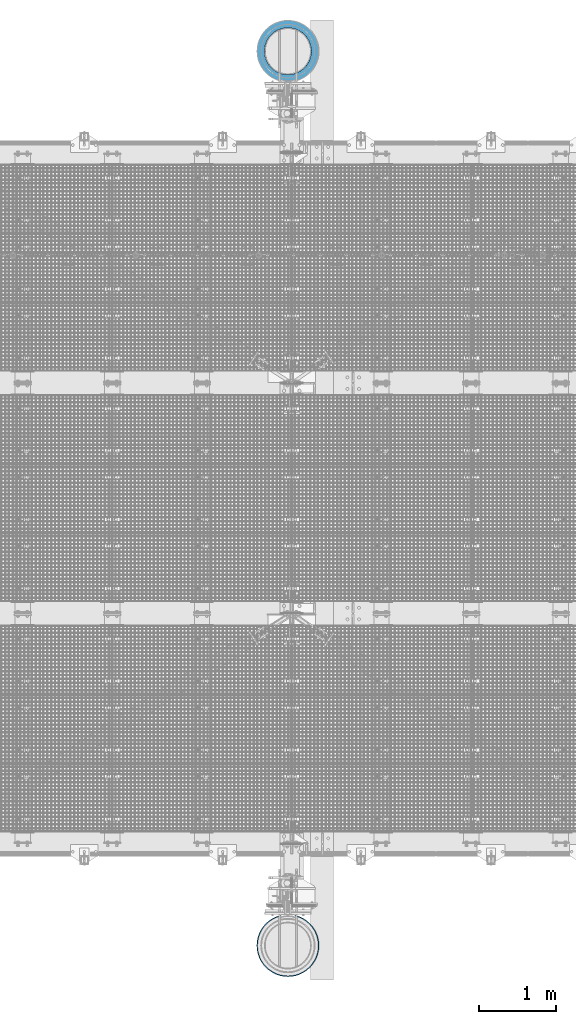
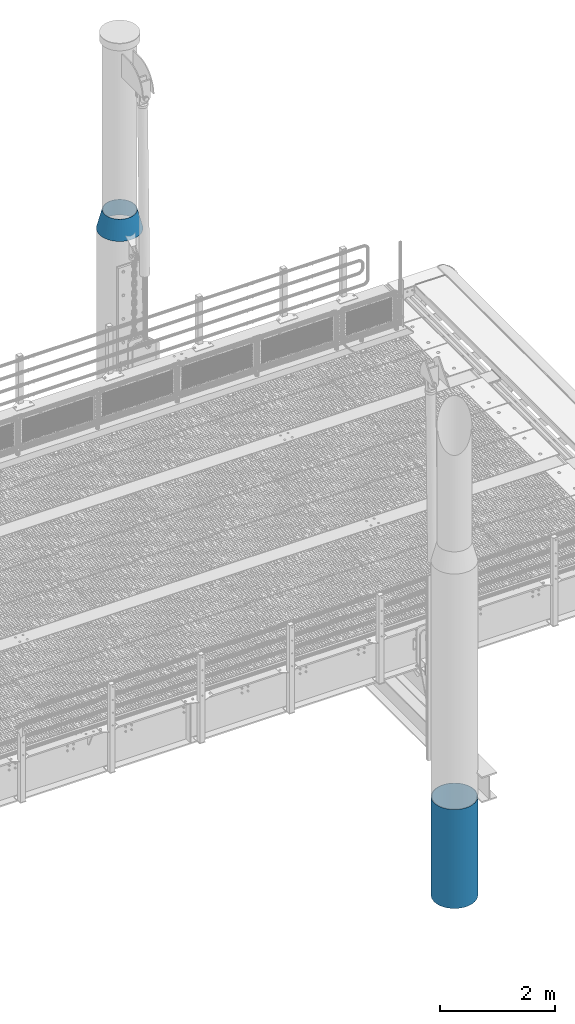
# One storey, part 109 of 1530: 2 columns.
"""IFC2X3 building model written with IfcOpenShell, lengths in millimetres."""

from ifc_helpers import new_model, si_unit, frame, origin_with_axes, place, context, subcontext, project, spatial, faceted_brep, material, type_object, element, save


model = new_model("IFC2X3")

# Units and contexts
model_context = context("Model", 3, precision=1e-05, world=origin_with_axes())
body_context = subcontext(model_context, "Body", "Model", "MODEL_VIEW")
ifc_project = project(units=[si_unit("LENGTHUNIT", "METRE", prefix="MILLI"), si_unit("AREAUNIT", "SQUARE_METRE"), si_unit("VOLUMEUNIT", "CUBIC_METRE"), si_unit("MASSUNIT", "GRAM", prefix="KILO"), si_unit("TIMEUNIT", "SECOND"), si_unit("PLANEANGLEUNIT", "RADIAN"), si_unit("SOLIDANGLEUNIT", "STERADIAN"), si_unit("THERMODYNAMICTEMPERATUREUNIT", "DEGREE_CELSIUS"), si_unit("LUMINOUSINTENSITYUNIT", "LUMEN")], contexts=[model_context])

# Site, building, storey
site_placement = place(None, origin_with_axes())
site = spatial("IfcSite", under=ifc_project, at=site_placement, Name="Brattvåg", CompositionType="ELEMENT")
building_placement = place(site_placement, origin_with_axes())
building = spatial("IfcBuilding", under=site, at=building_placement, Name="Undefined", CompositionType="ELEMENT")
storey_placement = place(building_placement, origin_with_axes())
storey = spatial("IfcBuildingStorey", under=building, at=storey_placement, Name="Undefined", CompositionType="ELEMENT", Elevation=0.0)

# Columns
ifc_material = material(Name="STEEL/Steel_Undefined")
column_type_1 = type_object("IfcColumnType", Name="EPD813*813*610*610*10", PredefinedType="NOTDEFINED")
column_1_placement = place(storey_placement, frame((12199.9995346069, 10321.5002708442, 2100.0), z_axis=(-1.0, 1.99999855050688e-09, 0.0), x_axis=(0.0, 0.0, 1.0)))
element("IfcColumn", 1, at=column_1_placement, inside=storey, type_object=column_type_1, material=ifc_material, Name="HEISTÅRN", context=body_context, shape_type="Brep", body=[
    faceted_brep([(0.0, -406.5, 0.0), (0.0, -403.022336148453, -53.0588971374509), (400.0, -302.390682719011, -39.8104886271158), (400.0, -305.0, 0.0), (0.0, -392.648848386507, -105.209941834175), (400.0, -294.607377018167, -78.9398087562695), (0.0, -375.557029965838, -155.560815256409), (400.0, -281.783257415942, -116.718446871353), (0.0, -352.039326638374, -203.25), (400.0, -264.137748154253, -152.5), (0.0, -322.498132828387, -247.461520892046), (400.0, -241.972768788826, -185.67223584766), (0.0, -287.438906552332, -287.438906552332), (400.0, -215.667568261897, -215.667568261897), (0.0, -247.461520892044, -322.498132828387), (400.0, -185.67223584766, -241.972768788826), (0.0, -203.25, -352.039326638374), (400.0, -152.5, -264.137748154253), (0.0, -155.560815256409, -375.557029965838), (400.0, -116.718446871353, -281.783257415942), (0.0, -105.209941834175, -392.648848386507), (400.0, -78.9398087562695, -294.607377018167), (0.0, -53.0588971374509, -403.022336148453), (400.0, -39.8104886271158, -302.390682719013), (0.0, 0.0, -406.5), (400.0, 0.0, -305.0), (0.0, 53.0588971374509, -403.022336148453), (400.0, 39.8104886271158, -302.390682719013), (0.0, 105.209941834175, -392.648848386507), (400.0, 78.9398087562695, -294.607377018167), (0.0, 155.560815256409, -375.557029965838), (400.0, 116.718446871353, -281.783257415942), (0.0, 203.25, -352.039326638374), (400.0, 152.5, -264.137748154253), (0.0, 247.461520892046, -322.498132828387), (400.0, 185.67223584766, -241.972768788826), (0.0, 287.438906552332, -287.438906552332), (400.0, 215.667568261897, -215.667568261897), (0.0, 322.498132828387, -247.461520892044), (400.0, 241.972768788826, -185.67223584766), (0.0, 352.039326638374, -203.25), (400.0, 264.137748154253, -152.5), (0.0, 375.557029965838, -155.560815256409), (400.0, 281.783257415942, -116.718446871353), (0.0, 392.648848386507, -105.209941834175), (400.0, 294.607377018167, -78.9398087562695), (0.0, 403.022336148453, -53.0588971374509), (400.0, 302.390682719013, -39.8104886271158), (0.0, 406.5, 0.0), (400.0, 305.0, 0.0), (0.0, 403.022336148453, 53.0588971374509), (400.0, 302.390682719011, 39.8104886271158), (0.0, 392.648848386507, 105.209941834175), (400.0, 294.607377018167, 78.9398087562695), (0.0, 375.557029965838, 155.560815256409), (400.0, 281.783257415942, 116.718446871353), (0.0, 352.039326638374, 203.25), (400.0, 264.137748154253, 152.5), (0.0, 322.498132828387, 247.461520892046), (400.0, 241.972768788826, 185.67223584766), (0.0, 287.438906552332, 287.438906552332), (400.0, 215.667568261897, 215.667568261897), (0.0, 247.461520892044, 322.498132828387), (400.0, 185.67223584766, 241.972768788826), (0.0, 203.25, 352.039326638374), (400.0, 152.5, 264.137748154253), (0.0, 155.560815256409, 375.557029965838), (400.0, 116.718446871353, 281.783257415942), (0.0, 105.209941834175, 392.648848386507), (400.0, 78.9398087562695, 294.607377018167), (0.0, 53.0588971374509, 403.022336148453), (400.0, 39.8104886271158, 302.390682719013), (0.0, 0.0, 406.5), (400.0, 0.0, 305.0), (0.0, -53.0588971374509, 403.022336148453), (400.0, -39.8104886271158, 302.390682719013), (0.0, -105.209941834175, 392.648848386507), (400.0, -78.9398087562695, 294.607377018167), (0.0, -155.560815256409, 375.557029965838), (400.0, -116.718446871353, 281.783257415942), (0.0, -203.25, 352.039326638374), (400.0, -152.5, 264.137748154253), (0.0, -247.461520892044, 322.498132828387), (400.0, -185.67223584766, 241.972768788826), (0.0, -287.438906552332, 287.438906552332), (400.0, -215.667568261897, 215.667568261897), (0.0, -322.498132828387, 247.461520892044), (400.0, -241.972768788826, 185.67223584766), (0.0, -352.039326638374, 203.25), (400.0, -264.137748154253, 152.5), (0.0, -375.557029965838, 155.560815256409), (400.0, -281.783257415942, 116.718446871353), (0.0, -392.648848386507, 105.209941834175), (400.0, -294.607377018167, 78.9398087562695), (0.0, -403.022336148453, 53.0588971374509), (400.0, -302.390682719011, 39.8104886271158), (0.0, -396.183076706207, 0.0), (0.0, -392.793675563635, 51.712268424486), (400.0, -292.162022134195, 38.4638599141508), (400.0, -294.683076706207, 0.0), (0.0, -382.683465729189, 102.539725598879), (400.0, -284.641994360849, 76.2695925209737), (0.0, -366.025435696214, 151.612699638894), (400.0, -272.251663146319, 112.770331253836), (0.0, -343.104608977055, 198.091538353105), (400.0, -255.203030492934, 147.341538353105), (0.0, -314.313167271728, 241.180975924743), (400.0, -233.787803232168, 179.391690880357), (0.0, -280.14374013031, 280.14374013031), (400.0, -208.372401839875, 208.372401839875), (0.0, -241.180975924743, 314.313167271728), (400.0, -179.391690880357, 233.787803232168), (0.0, -198.091538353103, 343.104608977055), (400.0, -147.341538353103, 255.203030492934), (0.0, -151.612699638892, 366.025435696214), (400.0, -112.770331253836, 272.251663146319), (0.0, -102.539725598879, 382.683465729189), (400.0, -76.2695925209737, 284.641994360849), (0.0, -51.712268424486, 392.793675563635), (400.0, -38.4638599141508, 292.162022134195), (0.0, 0.0, 396.183076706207), (400.0, 0.0, 294.683076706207), (0.0, 51.712268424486, 392.793675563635), (400.0, 38.4638599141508, 292.162022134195), (0.0, 102.539725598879, 382.683465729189), (400.0, 76.2695925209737, 284.641994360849), (0.0, 151.612699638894, 366.025435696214), (400.0, 112.770331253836, 272.251663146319), (0.0, 198.091538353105, 343.104608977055), (400.0, 147.341538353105, 255.203030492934), (0.0, 241.180975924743, 314.313167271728), (400.0, 179.391690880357, 233.787803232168), (0.0, 280.14374013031, 280.14374013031), (400.0, 208.372401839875, 208.372401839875), (0.0, 314.313167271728, 241.180975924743), (400.0, 233.787803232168, 179.391690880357), (0.0, 343.104608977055, 198.091538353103), (400.0, 255.203030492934, 147.341538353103), (0.0, 366.025435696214, 151.612699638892), (400.0, 272.251663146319, 112.770331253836), (0.0, 382.683465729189, 102.539725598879), (400.0, 284.641994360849, 76.2695925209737), (0.0, 392.793675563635, 51.712268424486), (400.0, 292.162022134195, 38.4638599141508), (0.0, 396.183076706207, 0.0), (400.0, 294.683076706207, 0.0), (0.0, 392.793675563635, -51.712268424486), (400.0, 292.162022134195, -38.4638599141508), (0.0, 382.683465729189, -102.539725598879), (400.0, 284.641994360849, -76.2695925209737), (0.0, 366.025435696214, -151.612699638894), (400.0, 272.251663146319, -112.770331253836), (0.0, 343.104608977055, -198.091538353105), (400.0, 255.203030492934, -147.341538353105), (0.0, 314.313167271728, -241.180975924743), (400.0, 233.787803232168, -179.391690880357), (0.0, 280.14374013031, -280.14374013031), (400.0, 208.372401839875, -208.372401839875), (0.0, 241.180975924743, -314.313167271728), (400.0, 179.391690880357, -233.787803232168), (0.0, 198.091538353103, -343.104608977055), (400.0, 147.341538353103, -255.203030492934), (0.0, 151.612699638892, -366.025435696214), (400.0, 112.770331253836, -272.251663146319), (0.0, 102.539725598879, -382.683465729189), (400.0, 76.2695925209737, -284.641994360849), (0.0, 51.712268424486, -392.793675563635), (400.0, 38.4638599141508, -292.162022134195), (0.0, 0.0, -396.183076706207), (400.0, 0.0, -294.683076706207), (0.0, -51.712268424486, -392.793675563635), (400.0, -38.4638599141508, -292.162022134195), (0.0, -102.539725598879, -382.683465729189), (400.0, -76.2695925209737, -284.641994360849), (0.0, -151.612699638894, -366.025435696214), (400.0, -112.770331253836, -272.251663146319), (0.0, -198.091538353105, -343.104608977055), (400.0, -147.341538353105, -255.203030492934), (0.0, -241.180975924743, -314.313167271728), (400.0, -179.391690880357, -233.787803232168), (0.0, -280.14374013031, -280.14374013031), (400.0, -208.372401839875, -208.372401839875), (0.0, -314.313167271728, -241.180975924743), (400.0, -233.787803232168, -179.391690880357), (0.0, -343.104608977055, -198.091538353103), (400.0, -255.203030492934, -147.341538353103), (0.0, -366.025435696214, -151.612699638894), (400.0, -272.251663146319, -112.770331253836), (0.0, -382.683465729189, -102.539725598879), (400.0, -284.641994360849, -76.2695925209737), (0.0, -392.793675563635, -51.712268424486), (400.0, -292.162022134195, -38.4638599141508)], [[[0, 1, 2, 3]], [[1, 4, 5, 2]], [[4, 6, 7, 5]], [[6, 8, 9, 7]], [[8, 10, 11, 9]], [[10, 12, 13, 11]], [[12, 14, 15, 13]], [[14, 16, 17, 15]], [[16, 18, 19, 17]], [[18, 20, 21, 19]], [[20, 22, 23, 21]], [[22, 24, 25, 23]], [[24, 26, 27, 25]], [[26, 28, 29, 27]], [[28, 30, 31, 29]], [[30, 32, 33, 31]], [[32, 34, 35, 33]], [[34, 36, 37, 35]], [[36, 38, 39, 37]], [[38, 40, 41, 39]], [[40, 42, 43, 41]], [[42, 44, 45, 43]], [[44, 46, 47, 45]], [[46, 48, 49, 47]], [[48, 50, 51, 49]], [[50, 52, 53, 51]], [[52, 54, 55, 53]], [[54, 56, 57, 55]], [[56, 58, 59, 57]], [[58, 60, 61, 59]], [[60, 62, 63, 61]], [[62, 64, 65, 63]], [[64, 66, 67, 65]], [[66, 68, 69, 67]], [[68, 70, 71, 69]], [[70, 72, 73, 71]], [[72, 74, 75, 73]], [[74, 76, 77, 75]], [[76, 78, 79, 77]], [[78, 80, 81, 79]], [[80, 82, 83, 81]], [[82, 84, 85, 83]], [[84, 86, 87, 85]], [[86, 88, 89, 87]], [[88, 90, 91, 89]], [[90, 92, 93, 91]], [[92, 94, 95, 93]], [[94, 0, 3, 95]], [[96, 97, 98, 99]], [[97, 100, 101, 98]], [[100, 102, 103, 101]], [[102, 104, 105, 103]], [[104, 106, 107, 105]], [[106, 108, 109, 107]], [[108, 110, 111, 109]], [[110, 112, 113, 111]], [[112, 114, 115, 113]], [[114, 116, 117, 115]], [[116, 118, 119, 117]], [[118, 120, 121, 119]], [[120, 122, 123, 121]], [[122, 124, 125, 123]], [[124, 126, 127, 125]], [[126, 128, 129, 127]], [[128, 130, 131, 129]], [[130, 132, 133, 131]], [[132, 134, 135, 133]], [[134, 136, 137, 135]], [[136, 138, 139, 137]], [[138, 140, 141, 139]], [[140, 142, 143, 141]], [[142, 144, 145, 143]], [[144, 146, 147, 145]], [[146, 148, 149, 147]], [[148, 150, 151, 149]], [[150, 152, 153, 151]], [[152, 154, 155, 153]], [[154, 156, 157, 155]], [[156, 158, 159, 157]], [[158, 160, 161, 159]], [[160, 162, 163, 161]], [[162, 164, 165, 163]], [[164, 166, 167, 165]], [[166, 168, 169, 167]], [[168, 170, 171, 169]], [[170, 172, 173, 171]], [[172, 174, 175, 173]], [[174, 176, 177, 175]], [[176, 178, 179, 177]], [[178, 180, 181, 179]], [[180, 182, 183, 181]], [[182, 184, 185, 183]], [[184, 186, 187, 185]], [[186, 188, 189, 187]], [[188, 190, 191, 189]], [[190, 96, 99, 191]], [[5, 7, 9, 11, 13, 15, 17, 19, 21, 23, 25, 27, 29, 31, 33, 35, 37, 39, 41, 43, 45, 47, 49, 51, 53, 55, 57, 59, 61, 63, 65, 67, 69, 71, 73, 75, 77, 79, 81, 83, 85, 87, 89, 91, 93, 95, 3, 2], [101, 103, 105, 107, 109, 111, 113, 115, 117, 119, 121, 123, 125, 127, 129, 131, 133, 135, 137, 139, 141, 143, 145, 147, 149, 151, 153, 155, 157, 159, 161, 163, 165, 167, 169, 171, 173, 175, 177, 179, 181, 183, 185, 187, 189, 191, 99, 98]], [[94, 92, 90, 88, 86, 84, 82, 80, 78, 76, 74, 72, 70, 68, 66, 64, 62, 60, 58, 56, 54, 52, 50, 48, 46, 44, 42, 40, 38, 36, 34, 32, 30, 28, 26, 24, 22, 20, 18, 16, 14, 12, 10, 8, 6, 4, 1, 0], [190, 188, 186, 184, 182, 180, 178, 176, 174, 172, 170, 168, 166, 164, 162, 160, 158, 156, 154, 152, 150, 148, 146, 144, 142, 140, 138, 136, 134, 132, 130, 128, 126, 124, 122, 120, 118, 116, 114, 112, 110, 108, 106, 104, 102, 100, 97, 96]]]),
])
column_type_2 = type_object("IfcColumnType", Name="Ø813*12.5", PredefinedType="NOTDEFINED")
column_2_placement = place(storey_placement, frame((12199.9995346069, -1321.50027084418, -5000.0), z_axis=(-1.0, 1.99999855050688e-09, 0.0), x_axis=(0.0, 0.0, 1.0)))
element("IfcColumn", 2, at=column_2_placement, inside=storey, type_object=column_type_2, material=ifc_material, Name="HEISTÅRN", context=body_context, shape_type="Brep", body=[
    faceted_brep([(0.0, -394.0, 0.0), (0.0, -390.629275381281, 51.4273197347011), (2100.0, -390.629275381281, 51.4273197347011), (2100.0, -394.0, 0.0), (0.0, -380.574775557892, 101.974703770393), (2100.0, -380.574775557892, 101.974703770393), (0.0, -364.008535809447, 150.777272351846), (2100.0, -364.008535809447, 150.777272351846), (0.0, -341.214009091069, 197.0), (2100.0, -341.214009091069, 197.0), (0.0, -312.581216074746, 239.852003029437), (2100.0, -312.581216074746, 239.852003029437), (0.0, -278.600071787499, 278.600071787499), (2100.0, -278.600071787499, 278.600071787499), (0.0, -239.852003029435, 312.581216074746), (2100.0, -239.852003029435, 312.581216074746), (0.0, -197.0, 341.214009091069), (2100.0, -197.0, 341.214009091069), (0.0, -150.777272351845, 364.008535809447), (2100.0, -150.777272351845, 364.008535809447), (0.0, -101.974703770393, 380.574775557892), (2100.0, -101.974703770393, 380.574775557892), (0.0, -51.4273197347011, 390.629275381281), (2100.0, -51.4273197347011, 390.629275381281), (0.0, 0.0, 394.0), (2100.0, 0.0, 394.0), (0.0, 51.4273197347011, 390.629275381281), (2100.0, 51.4273197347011, 390.629275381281), (0.0, 101.974703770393, 380.574775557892), (2100.0, 101.974703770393, 380.574775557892), (0.0, 150.777272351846, 364.008535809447), (2100.0, 150.777272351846, 364.008535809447), (0.0, 197.0, 341.214009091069), (2100.0, 197.0, 341.214009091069), (0.0, 239.852003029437, 312.581216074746), (2100.0, 239.852003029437, 312.581216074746), (0.0, 278.600071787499, 278.600071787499), (2100.0, 278.600071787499, 278.600071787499), (0.0, 312.581216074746, 239.852003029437), (2100.0, 312.581216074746, 239.852003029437), (0.0, 341.214009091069, 197.0), (2100.0, 341.214009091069, 197.0), (0.0, 364.008535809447, 150.777272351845), (2100.0, 364.008535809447, 150.777272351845), (0.0, 380.574775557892, 101.974703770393), (2100.0, 380.574775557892, 101.974703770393), (0.0, 390.629275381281, 51.4273197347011), (2100.0, 390.629275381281, 51.4273197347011), (0.0, 394.0, 0.0), (2100.0, 394.0, 0.0), (0.0, 390.629275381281, -51.4273197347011), (2100.0, 390.629275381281, -51.4273197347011), (0.0, 380.574775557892, -101.974703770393), (2100.0, 380.574775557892, -101.974703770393), (0.0, 364.008535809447, -150.777272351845), (2100.0, 364.008535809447, -150.777272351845), (0.0, 341.214009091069, -197.0), (2100.0, 341.214009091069, -197.0), (0.0, 312.581216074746, -239.852003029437), (2100.0, 312.581216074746, -239.852003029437), (0.0, 278.600071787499, -278.600071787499), (2100.0, 278.600071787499, -278.600071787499), (0.0, 239.852003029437, -312.581216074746), (2100.0, 239.852003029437, -312.581216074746), (0.0, 197.0, -341.214009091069), (2100.0, 197.0, -341.214009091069), (0.0, 150.777272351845, -364.008535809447), (2100.0, 150.777272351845, -364.008535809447), (0.0, 101.974703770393, -380.574775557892), (2100.0, 101.974703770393, -380.574775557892), (0.0, 51.4273197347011, -390.629275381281), (2100.0, 51.4273197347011, -390.629275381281), (0.0, 0.0, -394.0), (2100.0, 0.0, -394.0), (0.0, -51.4273197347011, -390.629275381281), (2100.0, -51.4273197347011, -390.629275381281), (0.0, -101.974703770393, -380.574775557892), (2100.0, -101.974703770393, -380.574775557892), (0.0, -150.777272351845, -364.008535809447), (2100.0, -150.777272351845, -364.008535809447), (0.0, -197.0, -341.214009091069), (2100.0, -197.0, -341.214009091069), (0.0, -239.852003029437, -312.581216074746), (2100.0, -239.852003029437, -312.581216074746), (0.0, -278.600071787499, -278.600071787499), (2100.0, -278.600071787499, -278.600071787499), (0.0, -312.581216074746, -239.852003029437), (2100.0, -312.581216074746, -239.852003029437), (0.0, -341.214009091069, -197.0), (2100.0, -341.214009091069, -197.0), (0.0, -364.008535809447, -150.777272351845), (2100.0, -364.008535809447, -150.777272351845), (0.0, -380.574775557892, -101.974703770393), (2100.0, -380.574775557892, -101.974703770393), (0.0, -390.629275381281, -51.4273197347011), (2100.0, -390.629275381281, -51.4273197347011), (0.0, -406.5, 0.0), (0.0, -403.022336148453, -53.0588971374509), (2100.0, -403.022336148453, -53.0588971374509), (2100.0, -406.5, 0.0), (0.0, -392.648848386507, -105.209941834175), (2100.0, -392.648848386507, -105.209941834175), (0.0, -375.557029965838, -155.560815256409), (2100.0, -375.557029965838, -155.560815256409), (0.0, -352.039326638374, -203.25), (2100.0, -352.039326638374, -203.25), (0.0, -322.498132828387, -247.461520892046), (2100.0, -322.498132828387, -247.461520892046), (0.0, -287.438906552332, -287.438906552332), (2100.0, -287.438906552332, -287.438906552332), (0.0, -247.461520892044, -322.498132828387), (2100.0, -247.461520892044, -322.498132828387), (0.0, -203.25, -352.039326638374), (2100.0, -203.25, -352.039326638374), (0.0, -155.560815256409, -375.557029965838), (2100.0, -155.560815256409, -375.557029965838), (0.0, -105.209941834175, -392.648848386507), (2100.0, -105.209941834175, -392.648848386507), (0.0, -53.0588971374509, -403.022336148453), (2100.0, -53.0588971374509, -403.022336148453), (0.0, 0.0, -406.5), (2100.0, 0.0, -406.5), (0.0, 53.0588971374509, -403.022336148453), (2100.0, 53.0588971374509, -403.022336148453), (0.0, 105.209941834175, -392.648848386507), (2100.0, 105.209941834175, -392.648848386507), (0.0, 155.560815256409, -375.557029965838), (2100.0, 155.560815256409, -375.557029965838), (0.0, 203.25, -352.039326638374), (2100.0, 203.25, -352.039326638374), (0.0, 247.461520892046, -322.498132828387), (2100.0, 247.461520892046, -322.498132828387), (0.0, 287.438906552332, -287.438906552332), (2100.0, 287.438906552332, -287.438906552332), (0.0, 322.498132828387, -247.461520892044), (2100.0, 322.498132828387, -247.461520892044), (0.0, 352.039326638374, -203.25), (2100.0, 352.039326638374, -203.25), (0.0, 375.557029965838, -155.560815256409), (2100.0, 375.557029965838, -155.560815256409), (0.0, 392.648848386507, -105.209941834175), (2100.0, 392.648848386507, -105.209941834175), (0.0, 403.022336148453, -53.0588971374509), (2100.0, 403.022336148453, -53.0588971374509), (0.0, 406.5, 0.0), (2100.0, 406.5, 0.0), (0.0, 403.022336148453, 53.0588971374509), (2100.0, 403.022336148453, 53.0588971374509), (0.0, 392.648848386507, 105.209941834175), (2100.0, 392.648848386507, 105.209941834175), (0.0, 375.557029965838, 155.560815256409), (2100.0, 375.557029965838, 155.560815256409), (0.0, 352.039326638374, 203.25), (2100.0, 352.039326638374, 203.25), (0.0, 322.498132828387, 247.461520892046), (2100.0, 322.498132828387, 247.461520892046), (0.0, 287.438906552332, 287.438906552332), (2100.0, 287.438906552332, 287.438906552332), (0.0, 247.461520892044, 322.498132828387), (2100.0, 247.461520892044, 322.498132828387), (0.0, 203.25, 352.039326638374), (2100.0, 203.25, 352.039326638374), (0.0, 155.560815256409, 375.557029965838), (2100.0, 155.560815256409, 375.557029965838), (0.0, 105.209941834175, 392.648848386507), (2100.0, 105.209941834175, 392.648848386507), (0.0, 53.0588971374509, 403.022336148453), (2100.0, 53.0588971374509, 403.022336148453), (0.0, 0.0, 406.5), (2100.0, 0.0, 406.5), (0.0, -53.0588971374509, 403.022336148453), (2100.0, -53.0588971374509, 403.022336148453), (0.0, -105.209941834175, 392.648848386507), (2100.0, -105.209941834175, 392.648848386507), (0.0, -155.560815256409, 375.557029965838), (2100.0, -155.560815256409, 375.557029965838), (0.0, -203.25, 352.039326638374), (2100.0, -203.25, 352.039326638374), (0.0, -247.461520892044, 322.498132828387), (2100.0, -247.461520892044, 322.498132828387), (0.0, -287.438906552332, 287.438906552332), (2100.0, -287.438906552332, 287.438906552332), (0.0, -322.498132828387, 247.461520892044), (2100.0, -322.498132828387, 247.461520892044), (0.0, -352.039326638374, 203.25), (2100.0, -352.039326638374, 203.25), (0.0, -375.557029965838, 155.560815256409), (2100.0, -375.557029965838, 155.560815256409), (0.0, -392.648848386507, 105.209941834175), (2100.0, -392.648848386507, 105.209941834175), (0.0, -403.022336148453, 53.0588971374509), (2100.0, -403.022336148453, 53.0588971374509)], [[[0, 1, 2, 3]], [[1, 4, 5, 2]], [[4, 6, 7, 5]], [[6, 8, 9, 7]], [[8, 10, 11, 9]], [[10, 12, 13, 11]], [[12, 14, 15, 13]], [[14, 16, 17, 15]], [[16, 18, 19, 17]], [[18, 20, 21, 19]], [[20, 22, 23, 21]], [[22, 24, 25, 23]], [[24, 26, 27, 25]], [[26, 28, 29, 27]], [[28, 30, 31, 29]], [[30, 32, 33, 31]], [[32, 34, 35, 33]], [[34, 36, 37, 35]], [[36, 38, 39, 37]], [[38, 40, 41, 39]], [[40, 42, 43, 41]], [[42, 44, 45, 43]], [[44, 46, 47, 45]], [[46, 48, 49, 47]], [[48, 50, 51, 49]], [[50, 52, 53, 51]], [[52, 54, 55, 53]], [[54, 56, 57, 55]], [[56, 58, 59, 57]], [[58, 60, 61, 59]], [[60, 62, 63, 61]], [[62, 64, 65, 63]], [[64, 66, 67, 65]], [[66, 68, 69, 67]], [[68, 70, 71, 69]], [[70, 72, 73, 71]], [[72, 74, 75, 73]], [[74, 76, 77, 75]], [[76, 78, 79, 77]], [[78, 80, 81, 79]], [[80, 82, 83, 81]], [[82, 84, 85, 83]], [[84, 86, 87, 85]], [[86, 88, 89, 87]], [[88, 90, 91, 89]], [[90, 92, 93, 91]], [[92, 94, 95, 93]], [[94, 0, 3, 95]], [[96, 97, 98, 99]], [[97, 100, 101, 98]], [[100, 102, 103, 101]], [[102, 104, 105, 103]], [[104, 106, 107, 105]], [[106, 108, 109, 107]], [[108, 110, 111, 109]], [[110, 112, 113, 111]], [[112, 114, 115, 113]], [[114, 116, 117, 115]], [[116, 118, 119, 117]], [[118, 120, 121, 119]], [[120, 122, 123, 121]], [[122, 124, 125, 123]], [[124, 126, 127, 125]], [[126, 128, 129, 127]], [[128, 130, 131, 129]], [[130, 132, 133, 131]], [[132, 134, 135, 133]], [[134, 136, 137, 135]], [[136, 138, 139, 137]], [[138, 140, 141, 139]], [[140, 142, 143, 141]], [[142, 144, 145, 143]], [[144, 146, 147, 145]], [[146, 148, 149, 147]], [[148, 150, 151, 149]], [[150, 152, 153, 151]], [[152, 154, 155, 153]], [[154, 156, 157, 155]], [[156, 158, 159, 157]], [[158, 160, 161, 159]], [[160, 162, 163, 161]], [[162, 164, 165, 163]], [[164, 166, 167, 165]], [[166, 168, 169, 167]], [[168, 170, 171, 169]], [[170, 172, 173, 171]], [[172, 174, 175, 173]], [[174, 176, 177, 175]], [[176, 178, 179, 177]], [[178, 180, 181, 179]], [[180, 182, 183, 181]], [[182, 184, 185, 183]], [[184, 186, 187, 185]], [[186, 188, 189, 187]], [[188, 190, 191, 189]], [[190, 96, 99, 191]], [[101, 103, 105, 107, 109, 111, 113, 115, 117, 119, 121, 123, 125, 127, 129, 131, 133, 135, 137, 139, 141, 143, 145, 147, 149, 151, 153, 155, 157, 159, 161, 163, 165, 167, 169, 171, 173, 175, 177, 179, 181, 183, 185, 187, 189, 191, 99, 98], [5, 7, 9, 11, 13, 15, 17, 19, 21, 23, 25, 27, 29, 31, 33, 35, 37, 39, 41, 43, 45, 47, 49, 51, 53, 55, 57, 59, 61, 63, 65, 67, 69, 71, 73, 75, 77, 79, 81, 83, 85, 87, 89, 91, 93, 95, 3, 2]], [[190, 188, 186, 184, 182, 180, 178, 176, 174, 172, 170, 168, 166, 164, 162, 160, 158, 156, 154, 152, 150, 148, 146, 144, 142, 140, 138, 136, 134, 132, 130, 128, 126, 124, 122, 120, 118, 116, 114, 112, 110, 108, 106, 104, 102, 100, 97, 96], [94, 92, 90, 88, 86, 84, 82, 80, 78, 76, 74, 72, 70, 68, 66, 64, 62, 60, 58, 56, 54, 52, 50, 48, 46, 44, 42, 40, 38, 36, 34, 32, 30, 28, 26, 24, 22, 20, 18, 16, 14, 12, 10, 8, 6, 4, 1, 0]]]),
])

save(model, "model.ifc")
